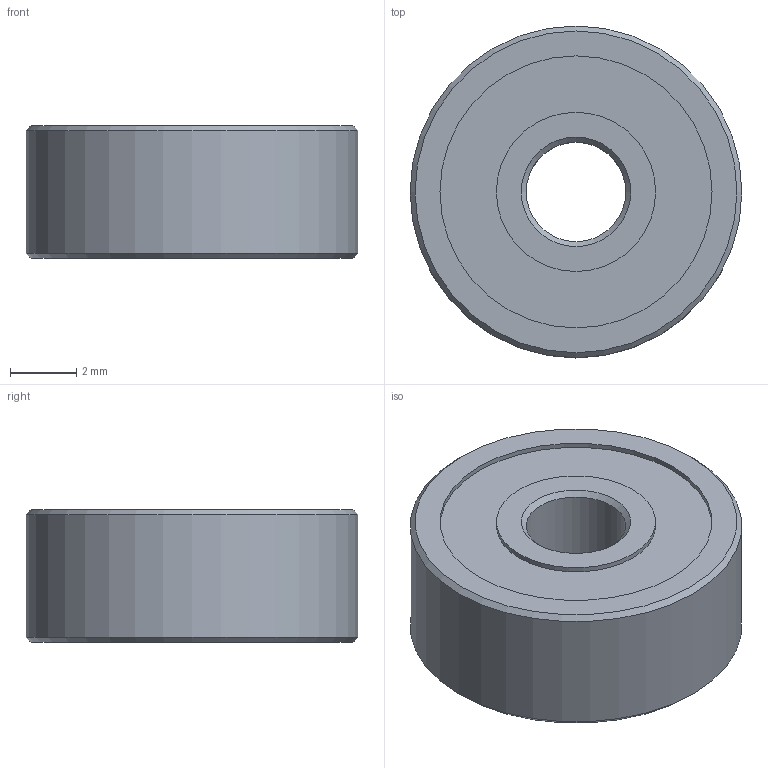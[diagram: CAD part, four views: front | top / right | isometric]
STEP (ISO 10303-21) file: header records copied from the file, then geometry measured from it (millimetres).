
FILE_DESCRIPTION(('Open CASCADE Model'),'2;1');
FILE_NAME('623ZZ_bearing_3x10x4','2026-09-04T00:01:42',('Author'),( 'Open CASCADE'),'Open CASCADE STEP processor 7.9','build123d', 'Unknown');
FILE_SCHEMA(('AUTOMOTIVE_DESIGN { 1 0 10303 214 1 1 1 1 }'));
Length unit declared in the file: millimetre
Products named in the file (5): 623ZZ_bearing_3x10x4; outer_ring; inner_ring; shield_top; shield_bottom
Assembly tree (4 placements, depth 2):
  623ZZ_bearing_3x10x4
    outer_ring
    inner_ring
    shield_top
    shield_bottom
Bounding box: 10 x 10 x 4 mm (x, y, z)
Volume: 160 mm3; surface area: 548.3 mm2
Topology: 4 solids, 4 shells, 20 faces, 32 edges, 20 vertices
Faces by surface type: cylinder 8, plane 8, cone 4
Full cylindrical faces by diameter (mm): 3 x1, 4.8 x3, 8.2 x3, 10 x1
Entity records: 556 total; most frequent: DIRECTION 102, CARTESIAN_POINT 77, ORIENTED_EDGE 64, AXIS2_PLACEMENT_3D 45, EDGE_CURVE 32, FACE_BOUND 28, EDGE_LOOP 28, ADVANCED_FACE 20
